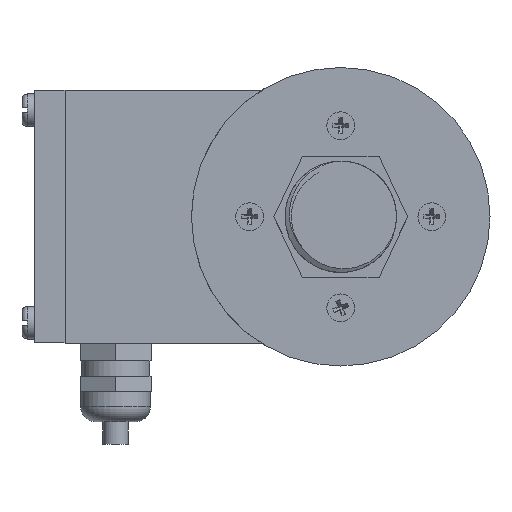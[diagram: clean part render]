
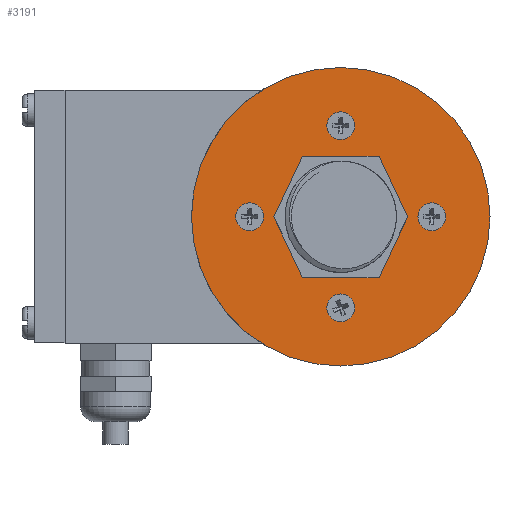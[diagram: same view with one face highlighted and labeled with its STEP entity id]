
A CAD part, front view. The second image highlights one B-rep face of the part: STEP entity #3191.
In plain terms, the highlighted planar face has unit normal (0, -1, 0).
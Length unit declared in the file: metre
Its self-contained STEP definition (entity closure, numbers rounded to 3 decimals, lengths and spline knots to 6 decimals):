
#373 = CIRCLE ( 'NONE', #6494, 0.00275 ) ;
#409 = CIRCLE ( 'NONE', #6492, 0.00275 ) ;
#413 = CIRCLE ( 'NONE', #6497, 0.00275 ) ;
#1488 = VERTEX_POINT ( 'NONE', #3073 ) ;
#1526 = VERTEX_POINT ( 'NONE', #11694 ) ;
#1556 = VERTEX_POINT ( 'NONE', #11383 ) ;
#1568 = VERTEX_POINT ( 'NONE', #11389 ) ;
#1644 = VERTEX_POINT ( 'NONE', #11365 ) ;
#1874 = CIRCLE ( 'NONE', #6475, 0.00275 ) ;
#1971 = CIRCLE ( 'NONE', #6485, 0.00275 ) ;
#1975 = CIRCLE ( 'NONE', #6481, 0.00275 ) ;
#2032 = CIRCLE ( 'NONE', #6477, 0.0295 ) ;
#2066 = CIRCLE ( 'NONE', #6482, 0.012 ) ;
#2068 = CIRCLE ( 'NONE', #6484, 0.00275 ) ;
#2083 = CIRCLE ( 'NONE', #6472, 0.00275 ) ;
#3073 = CARTESIAN_POINT ( 'NONE',  ( -0.01173, 0.003431, 0.01975 ) ) ;
#3191 = ADVANCED_FACE ( 'NONE', ( #14176, #14210, #14168, #14185, #14167, #14180 ), #11750, .F. ) ;
#3324 = EDGE_CURVE ( 'NONE', #12136, #12121, #2083, .T. ) ;
#3331 = EDGE_CURVE ( 'NONE', #1568, #12119, #1874, .T. ) ;
#3334 = EDGE_CURVE ( 'NONE', #1556, #1526, #2032, .T. ) ;
#3353 = EDGE_CURVE ( 'NONE', #12269, #12113, #1975, .T. ) ;
#3356 = EDGE_CURVE ( 'NONE', #12271, #1488, #2066, .T. ) ;
#3361 = EDGE_CURVE ( 'NONE', #12226, #1644, #2068, .T. ) ;
#3362 = EDGE_CURVE ( 'NONE', #12119, #1568, #1971, .T. ) ;
#3393 = EDGE_CURVE ( 'NONE', #1644, #12226, #409, .T. ) ;
#3402 = EDGE_CURVE ( 'NONE', #12113, #12269, #373, .T. ) ;
#3418 = EDGE_CURVE ( 'NONE', #12121, #12136, #413, .T. ) ;
#4204 = AXIS2_PLACEMENT_3D ( 'NONE', #8088, #8089, #8090 ) ;
#4218 = AXIS2_PLACEMENT_3D ( 'NONE', #8496, #8497, #8498 ) ;
#5167 = DIRECTION ( 'NONE',  ( 0., 0., 1. ) ) ;
#5168 = DIRECTION ( 'NONE',  ( 0., -1., 0. ) ) ;
#5169 = CARTESIAN_POINT ( 'NONE',  ( -0.01173, 0.003431, 0.02575 ) ) ;
#5191 = DIRECTION ( 'NONE',  ( 0., 1., 0. ) ) ;
#5192 = CARTESIAN_POINT ( 'NONE',  ( -0.02973, 0.003431, 0.00775 ) ) ;
#5196 = DIRECTION ( 'NONE',  ( 0., 0., 1. ) ) ;
#5263 = CARTESIAN_POINT ( 'NONE',  ( 0.00627, 0.003431, 0.00775 ) ) ;
#5266 = DIRECTION ( 'NONE',  ( 0., 0., 1. ) ) ;
#5267 = DIRECTION ( 'NONE',  ( 0., 1., 0. ) ) ;
#5376 = CARTESIAN_POINT ( 'NONE',  ( -0.01173, 0.003431, -0.01025 ) ) ;
#5399 = DIRECTION ( 'NONE',  ( 0., 1., 0. ) ) ;
#5440 = DIRECTION ( 'NONE',  ( 0., 0., 1. ) ) ;
#5610 = CIRCLE ( 'NONE', #4204, 0.0295 ) ;
#5669 = CIRCLE ( 'NONE', #4218, 0.012 ) ;
#5875 = ORIENTED_EDGE ( 'NONE', *, *, #3353, .T. ) ;
#5891 = ORIENTED_EDGE ( 'NONE', *, *, #12809, .F. ) ;
#5903 = ORIENTED_EDGE ( 'NONE', *, *, #3418, .T. ) ;
#5943 = ORIENTED_EDGE ( 'NONE', *, *, #3356, .F. ) ;
#5953 = ORIENTED_EDGE ( 'NONE', *, *, #3362, .T. ) ;
#5956 = ORIENTED_EDGE ( 'NONE', *, *, #3331, .T. ) ;
#5959 = ORIENTED_EDGE ( 'NONE', *, *, #3334, .T. ) ;
#5972 = ORIENTED_EDGE ( 'NONE', *, *, #3402, .T. ) ;
#5976 = ORIENTED_EDGE ( 'NONE', *, *, #3393, .F. ) ;
#6032 = ORIENTED_EDGE ( 'NONE', *, *, #3361, .F. ) ;
#6048 = ORIENTED_EDGE ( 'NONE', *, *, #3324, .T. ) ;
#6080 = ORIENTED_EDGE ( 'NONE', *, *, #12752, .T. ) ;
#6348 = AXIS2_PLACEMENT_3D ( 'NONE', #11538, #11537, #11541 ) ;
#6472 = AXIS2_PLACEMENT_3D ( 'NONE', #13677, #13676, #13675 ) ;
#6475 = AXIS2_PLACEMENT_3D ( 'NONE', #13849, #13848, #13847 ) ;
#6477 = AXIS2_PLACEMENT_3D ( 'NONE', #13766, #13765, #13764 ) ;
#6481 = AXIS2_PLACEMENT_3D ( 'NONE', #13925, #13923, #13924 ) ;
#6482 = AXIS2_PLACEMENT_3D ( 'NONE', #14102, #14101, #14100 ) ;
#6484 = AXIS2_PLACEMENT_3D ( 'NONE', #13858, #13775, #13684 ) ;
#6485 = AXIS2_PLACEMENT_3D ( 'NONE', #5376, #5399, #5440 ) ;
#6492 = AXIS2_PLACEMENT_3D ( 'NONE', #5169, #5168, #5167 ) ;
#6494 = AXIS2_PLACEMENT_3D ( 'NONE', #5192, #5191, #5196 ) ;
#6497 = AXIS2_PLACEMENT_3D ( 'NONE', #5263, #5267, #5266 ) ;
#7985 = CARTESIAN_POINT ( 'NONE',  ( -0.02973, 0.003431, 0.0105 ) ) ;
#7987 = CARTESIAN_POINT ( 'NONE',  ( -0.01173, 0.003431, -0.00425 ) ) ;
#8088 = CARTESIAN_POINT ( 'NONE',  ( -0.01173, 0.003431, 0.00775 ) ) ;
#8089 = DIRECTION ( 'NONE',  ( 0., -1., 0. ) ) ;
#8090 = DIRECTION ( 'NONE',  ( 0., 0., -1. ) ) ;
#8496 = CARTESIAN_POINT ( 'NONE',  ( -0.01173, 0.003431, 0.00775 ) ) ;
#8497 = DIRECTION ( 'NONE',  ( 0., -1., 0. ) ) ;
#8498 = DIRECTION ( 'NONE',  ( 0., 0., 1. ) ) ;
#10977 = CARTESIAN_POINT ( 'NONE',  ( -0.02973, 0.003431, 0.005 ) ) ;
#10988 = CARTESIAN_POINT ( 'NONE',  ( -0.01173, 0.003431, -0.013 ) ) ;
#10991 = CARTESIAN_POINT ( 'NONE',  ( 0.00627, 0.003431, 0.0105 ) ) ;
#11016 = CARTESIAN_POINT ( 'NONE',  ( 0.00627, 0.003431, 0.005 ) ) ;
#11172 = CARTESIAN_POINT ( 'NONE',  ( -0.01173, 0.003431, 0.0285 ) ) ;
#11365 = CARTESIAN_POINT ( 'NONE',  ( -0.01173, 0.003431, 0.023 ) ) ;
#11383 = CARTESIAN_POINT ( 'NONE',  ( -0.01173, 0.003431, -0.02175 ) ) ;
#11389 = CARTESIAN_POINT ( 'NONE',  ( -0.01173, 0.003431, -0.0075 ) ) ;
#11537 = DIRECTION ( 'NONE',  ( 0., 1., 0. ) ) ;
#11538 = CARTESIAN_POINT ( 'NONE',  ( -0.04123, 0.003431, 0.00775 ) ) ;
#11541 = DIRECTION ( 'NONE',  ( 0., 0., 1. ) ) ;
#11694 = CARTESIAN_POINT ( 'NONE',  ( -0.01173, 0.003431, 0.03725 ) ) ;
#11750 = PLANE ( 'NONE',  #6348 ) ;
#12113 = VERTEX_POINT ( 'NONE', #10977 ) ;
#12119 = VERTEX_POINT ( 'NONE', #10988 ) ;
#12121 = VERTEX_POINT ( 'NONE', #10991 ) ;
#12136 = VERTEX_POINT ( 'NONE', #11016 ) ;
#12226 = VERTEX_POINT ( 'NONE', #11172 ) ;
#12269 = VERTEX_POINT ( 'NONE', #7985 ) ;
#12271 = VERTEX_POINT ( 'NONE', #7987 ) ;
#12752 = EDGE_CURVE ( 'NONE', #1526, #1556, #5610, .T. ) ;
#12809 = EDGE_CURVE ( 'NONE', #1488, #12271, #5669, .T. ) ;
#13032 = EDGE_LOOP ( 'NONE', ( #5891, #5943 ) ) ;
#13248 = EDGE_LOOP ( 'NONE', ( #6032, #5976 ) ) ;
#13254 = EDGE_LOOP ( 'NONE', ( #5903, #6048 ) ) ;
#13299 = EDGE_LOOP ( 'NONE', ( #5956, #5953 ) ) ;
#13307 = EDGE_LOOP ( 'NONE', ( #5875, #5972 ) ) ;
#13376 = EDGE_LOOP ( 'NONE', ( #5959, #6080 ) ) ;
#13675 = DIRECTION ( 'NONE',  ( 0., 0., 1. ) ) ;
#13676 = DIRECTION ( 'NONE',  ( 0., 1., 0. ) ) ;
#13677 = CARTESIAN_POINT ( 'NONE',  ( 0.00627, 0.003431, 0.00775 ) ) ;
#13684 = DIRECTION ( 'NONE',  ( 0., 0., 1. ) ) ;
#13764 = DIRECTION ( 'NONE',  ( 0., 0., -1. ) ) ;
#13765 = DIRECTION ( 'NONE',  ( 0., -1., 0. ) ) ;
#13766 = CARTESIAN_POINT ( 'NONE',  ( -0.01173, 0.003431, 0.00775 ) ) ;
#13775 = DIRECTION ( 'NONE',  ( 0., -1., 0. ) ) ;
#13847 = DIRECTION ( 'NONE',  ( 0., 0., 1. ) ) ;
#13848 = DIRECTION ( 'NONE',  ( 0., 1., 0. ) ) ;
#13849 = CARTESIAN_POINT ( 'NONE',  ( -0.01173, 0.003431, -0.01025 ) ) ;
#13858 = CARTESIAN_POINT ( 'NONE',  ( -0.01173, 0.003431, 0.02575 ) ) ;
#13923 = DIRECTION ( 'NONE',  ( 0., 1., 0. ) ) ;
#13924 = DIRECTION ( 'NONE',  ( 0., 0., 1. ) ) ;
#13925 = CARTESIAN_POINT ( 'NONE',  ( -0.02973, 0.003431, 0.00775 ) ) ;
#14100 = DIRECTION ( 'NONE',  ( 0., 0., 1. ) ) ;
#14101 = DIRECTION ( 'NONE',  ( 0., -1., 0. ) ) ;
#14102 = CARTESIAN_POINT ( 'NONE',  ( -0.01173, 0.003431, 0.00775 ) ) ;
#14167 = FACE_OUTER_BOUND ( 'NONE', #13376, .T. ) ;
#14168 = FACE_BOUND ( 'NONE', #13254, .T. ) ;
#14176 = FACE_BOUND ( 'NONE', #13248, .T. ) ;
#14180 = FACE_BOUND ( 'NONE', #13032, .T. ) ;
#14185 = FACE_BOUND ( 'NONE', #13299, .T. ) ;
#14210 = FACE_BOUND ( 'NONE', #13307, .T. ) ;
